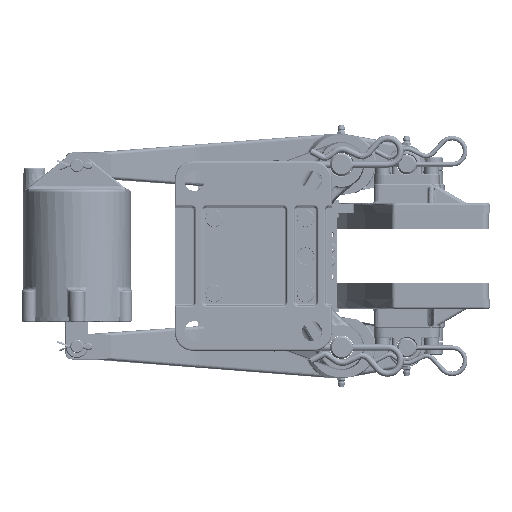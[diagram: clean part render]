
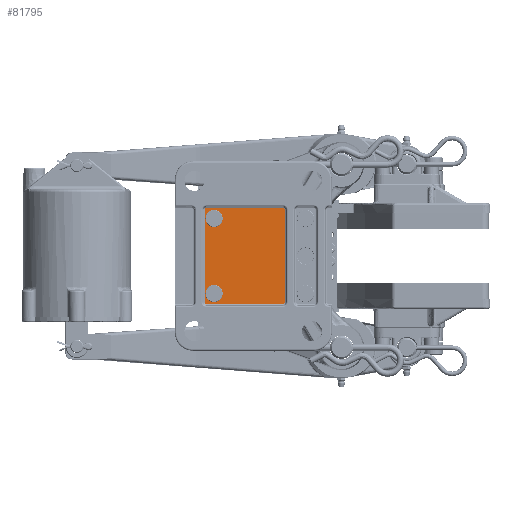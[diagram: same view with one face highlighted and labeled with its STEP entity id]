
A CAD part, front view. The second image highlights one B-rep face of the part: STEP entity #81795.
In plain terms, the highlighted planar face has unit normal (0, -1, 0).
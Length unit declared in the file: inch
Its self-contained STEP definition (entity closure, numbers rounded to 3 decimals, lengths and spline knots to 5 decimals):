
#1247 = CARTESIAN_POINT ( 'NONE',  ( -4.67498, -9.25304, -1.1074 ) ) ;
#2222 = VERTEX_POINT ( 'NONE', #1247 ) ;
#8050 = VERTEX_POINT ( 'NONE', #245953 ) ;
#8645 = EDGE_CURVE ( 'NONE', #47087, #54825, #269432, .T. ) ;
#10059 = CIRCLE ( 'NONE', #208337, 0.06358 ) ;
#11598 = AXIS2_PLACEMENT_3D ( 'NONE', #82730, #58178, #282092 ) ;
#15531 = AXIS2_PLACEMENT_3D ( 'NONE', #264314, #44847, #154623 ) ;
#17103 = CARTESIAN_POINT ( 'NONE',  ( -4.96998, -9.25304, 1.767 ) ) ;
#17621 = VECTOR ( 'NONE', #55744, 39.37008 ) ;
#28926 = VECTOR ( 'NONE', #233070, 39.37008 ) ;
#30869 = CARTESIAN_POINT ( 'NONE',  ( -4.67498, -9.25304, 1.1114 ) ) ;
#32818 = DIRECTION ( 'NONE',  ( 0., 0., -1. ) ) ;
#34889 = EDGE_CURVE ( 'NONE', #254852, #162913, #154915, .T. ) ;
#39150 = CIRCLE ( 'NONE', #11598, 0.3281 ) ;
#43093 = EDGE_CURVE ( 'NONE', #162913, #139988, #55089, .T. ) ;
#44231 = DIRECTION ( 'NONE',  ( 0., 0., 1. ) ) ;
#44847 = DIRECTION ( 'NONE',  ( 0., -1., 0. ) ) ;
#47087 = VERTEX_POINT ( 'NONE', #279426 ) ;
#50934 = ORIENTED_EDGE ( 'NONE', *, *, #278662, .T. ) ;
#54825 = VERTEX_POINT ( 'NONE', #223238 ) ;
#55089 = LINE ( 'NONE', #75305, #243739 ) ;
#55744 = DIRECTION ( 'NONE',  ( 1., 0., 0. ) ) ;
#57787 = CARTESIAN_POINT ( 'NONE',  ( -4.96998, -9.25304, 1.83058 ) ) ;
#58178 = DIRECTION ( 'NONE',  ( 0., -1., 0. ) ) ;
#58592 = AXIS2_PLACEMENT_3D ( 'NONE', #101027, #215056, #77834 ) ;
#60951 = ORIENTED_EDGE ( 'NONE', *, *, #142752, .T. ) ;
#61513 = CARTESIAN_POINT ( 'NONE',  ( -2.03998, -9.25304, 1.767 ) ) ;
#63974 = ORIENTED_EDGE ( 'NONE', *, *, #161818, .T. ) ;
#64536 = ORIENTED_EDGE ( 'NONE', *, *, #270280, .F. ) ;
#65809 = CARTESIAN_POINT ( 'NONE',  ( -4.67498, -9.25304, 1.7676 ) ) ;
#68705 = FACE_OUTER_BOUND ( 'NONE', #108597, .T. ) ;
#69447 = VERTEX_POINT ( 'NONE', #257244 ) ;
#75305 = CARTESIAN_POINT ( 'NONE',  ( -5.03357, -9.25304, -1.763 ) ) ;
#76908 = VECTOR ( 'NONE', #44231, 39.37008 ) ;
#77834 = DIRECTION ( 'NONE',  ( 0., 0., -1. ) ) ;
#78005 = CARTESIAN_POINT ( 'NONE',  ( -4.96998, -9.25304, -1.763 ) ) ;
#78618 = CARTESIAN_POINT ( 'NONE',  ( -2.03998, -9.25304, -1.763 ) ) ;
#81795 = ADVANCED_FACE ( 'NONE', ( #135318, #266632, #68705 ), #113608, .T. ) ;
#82730 = CARTESIAN_POINT ( 'NONE',  ( -4.67498, -9.25304, 1.4395 ) ) ;
#85603 = AXIS2_PLACEMENT_3D ( 'NONE', #17103, #171598, #262458 ) ;
#86462 = ORIENTED_EDGE ( 'NONE', *, *, #232451, .F. ) ;
#94892 = CARTESIAN_POINT ( 'NONE',  ( -2.03998, -9.25304, -1.82658 ) ) ;
#95973 = EDGE_LOOP ( 'NONE', ( #64536, #277957 ) ) ;
#101027 = CARTESIAN_POINT ( 'NONE',  ( -4.67498, -9.25304, -1.4355 ) ) ;
#101811 = CIRCLE ( 'NONE', #253929, 0.06358 ) ;
#104556 = CARTESIAN_POINT ( 'NONE',  ( -4.67498, -9.25304, -1.7636 ) ) ;
#108597 = EDGE_LOOP ( 'NONE', ( #196331, #50934, #60951, #182049, #227802, #159927, #63974, #191274 ) ) ;
#113608 = PLANE ( 'NONE',  #284168 ) ;
#117123 = CARTESIAN_POINT ( 'NONE',  ( -5.03357, -9.25304, -1.763 ) ) ;
#117219 = DIRECTION ( 'NONE',  ( 0., -1., 0. ) ) ;
#118060 = LINE ( 'NONE', #94892, #17621 ) ;
#120221 = DIRECTION ( 'NONE',  ( 0., 0., -1. ) ) ;
#125795 = DIRECTION ( 'NONE',  ( 0., 0., -1. ) ) ;
#135318 = FACE_BOUND ( 'NONE', #95973, .T. ) ;
#138892 = CARTESIAN_POINT ( 'NONE',  ( -4.67498, -9.25304, -1.4355 ) ) ;
#139988 = VERTEX_POINT ( 'NONE', #117123 ) ;
#142752 = EDGE_CURVE ( 'NONE', #8050, #254852, #230224, .T. ) ;
#146456 = VERTEX_POINT ( 'NONE', #104556 ) ;
#147986 = EDGE_CURVE ( 'NONE', #177732, #47087, #275054, .T. ) ;
#154623 = DIRECTION ( 'NONE',  ( 0., 0., -1. ) ) ;
#154915 = CIRCLE ( 'NONE', #85603, 0.06358 ) ;
#155039 = AXIS2_PLACEMENT_3D ( 'NONE', #138892, #117219, #205176 ) ;
#158606 = CIRCLE ( 'NONE', #15531, 0.3281 ) ;
#159927 = ORIENTED_EDGE ( 'NONE', *, *, #239070, .T. ) ;
#161818 = EDGE_CURVE ( 'NONE', #69447, #177732, #118060, .T. ) ;
#162913 = VERTEX_POINT ( 'NONE', #185186 ) ;
#170838 = ORIENTED_EDGE ( 'NONE', *, *, #192117, .F. ) ;
#171598 = DIRECTION ( 'NONE',  ( 0., -1., 0. ) ) ;
#177732 = VERTEX_POINT ( 'NONE', #205504 ) ;
#181845 = DIRECTION ( 'NONE',  ( 0., -1., 0. ) ) ;
#182049 = ORIENTED_EDGE ( 'NONE', *, *, #34889, .T. ) ;
#185186 = CARTESIAN_POINT ( 'NONE',  ( -5.03357, -9.25304, 1.767 ) ) ;
#191274 = ORIENTED_EDGE ( 'NONE', *, *, #147986, .T. ) ;
#192117 = EDGE_CURVE ( 'NONE', #2222, #146456, #196402, .T. ) ;
#196331 = ORIENTED_EDGE ( 'NONE', *, *, #8645, .T. ) ;
#196402 = CIRCLE ( 'NONE', #155039, 0.3281 ) ;
#196715 = EDGE_LOOP ( 'NONE', ( #170838, #86462 ) ) ;
#205176 = DIRECTION ( 'NONE',  ( 0., 0., -1. ) ) ;
#205504 = CARTESIAN_POINT ( 'NONE',  ( -2.03998, -9.25304, -1.82658 ) ) ;
#205859 = DIRECTION ( 'NONE',  ( 0., -1., 0. ) ) ;
#208337 = AXIS2_PLACEMENT_3D ( 'NONE', #61513, #232066, #32818 ) ;
#215056 = DIRECTION ( 'NONE',  ( 0., -1., 0. ) ) ;
#223238 = CARTESIAN_POINT ( 'NONE',  ( -1.9764, -9.25304, 1.767 ) ) ;
#225160 = CARTESIAN_POINT ( 'NONE',  ( -2.03998, -9.25304, -1.763 ) ) ;
#227802 = ORIENTED_EDGE ( 'NONE', *, *, #43093, .T. ) ;
#228131 = EDGE_CURVE ( 'NONE', #268520, #229664, #158606, .T. ) ;
#229664 = VERTEX_POINT ( 'NONE', #65809 ) ;
#230224 = LINE ( 'NONE', #274962, #28926 ) ;
#232066 = DIRECTION ( 'NONE',  ( 0., -1., 0. ) ) ;
#232451 = EDGE_CURVE ( 'NONE', #146456, #2222, #238482, .T. ) ;
#233070 = DIRECTION ( 'NONE',  ( -1., 0., 0. ) ) ;
#238482 = CIRCLE ( 'NONE', #58592, 0.3281 ) ;
#239070 = EDGE_CURVE ( 'NONE', #139988, #69447, #101811, .T. ) ;
#242053 = CARTESIAN_POINT ( 'NONE',  ( -1.9764, -9.25304, 1.767 ) ) ;
#243739 = VECTOR ( 'NONE', #120221, 39.37008 ) ;
#245953 = CARTESIAN_POINT ( 'NONE',  ( -2.03998, -9.25304, 1.83058 ) ) ;
#252039 = DIRECTION ( 'NONE',  ( 0., 0., -1. ) ) ;
#253929 = AXIS2_PLACEMENT_3D ( 'NONE', #78005, #278790, #125795 ) ;
#254852 = VERTEX_POINT ( 'NONE', #57787 ) ;
#256696 = AXIS2_PLACEMENT_3D ( 'NONE', #225160, #181845, #269897 ) ;
#257244 = CARTESIAN_POINT ( 'NONE',  ( -4.96998, -9.25304, -1.82658 ) ) ;
#262458 = DIRECTION ( 'NONE',  ( 0., 0., -1. ) ) ;
#264314 = CARTESIAN_POINT ( 'NONE',  ( -4.67498, -9.25304, 1.4395 ) ) ;
#266632 = FACE_BOUND ( 'NONE', #196715, .T. ) ;
#268520 = VERTEX_POINT ( 'NONE', #30869 ) ;
#269432 = LINE ( 'NONE', #242053, #76908 ) ;
#269897 = DIRECTION ( 'NONE',  ( 0., 0., -1. ) ) ;
#270280 = EDGE_CURVE ( 'NONE', #229664, #268520, #39150, .T. ) ;
#274962 = CARTESIAN_POINT ( 'NONE',  ( -4.96998, -9.25304, 1.83058 ) ) ;
#275054 = CIRCLE ( 'NONE', #256696, 0.06358 ) ;
#277957 = ORIENTED_EDGE ( 'NONE', *, *, #228131, .F. ) ;
#278662 = EDGE_CURVE ( 'NONE', #54825, #8050, #10059, .T. ) ;
#278790 = DIRECTION ( 'NONE',  ( 0., -1., 0. ) ) ;
#279426 = CARTESIAN_POINT ( 'NONE',  ( -1.9764, -9.25304, -1.763 ) ) ;
#282092 = DIRECTION ( 'NONE',  ( 0., 0., -1. ) ) ;
#284168 = AXIS2_PLACEMENT_3D ( 'NONE', #78618, #205859, #252039 ) ;
